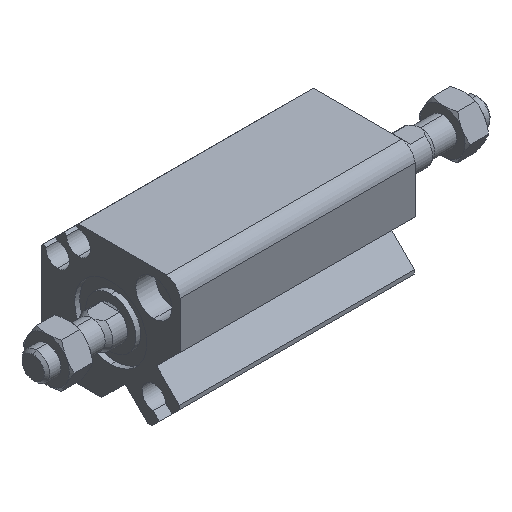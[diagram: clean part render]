
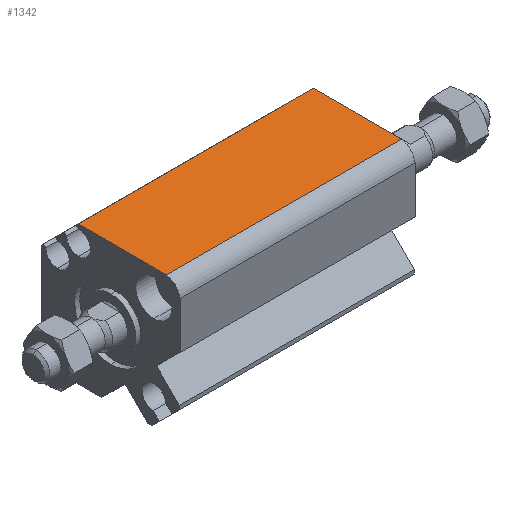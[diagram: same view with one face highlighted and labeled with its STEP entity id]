
A CAD part, isometric view. The second image highlights one B-rep face of the part: STEP entity #1342.
In plain terms, the highlighted planar face has unit normal (0, 0, 1).
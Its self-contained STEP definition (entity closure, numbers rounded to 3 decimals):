
#233 = EDGE_CURVE ( 'NONE', #553, #1711, #1279, .T. ) ;
#306 = CARTESIAN_POINT ( 'NONE',  ( 42.4, 5.885, 12.5 ) ) ;
#327 = DIRECTION ( 'NONE',  ( 0., 0., -1. ) ) ;
#384 = ORIENTED_EDGE ( 'NONE', *, *, #3350, .T. ) ;
#553 = VERTEX_POINT ( 'NONE', #4320 ) ;
#585 = VECTOR ( 'NONE', #4435, 1000. ) ;
#658 = CARTESIAN_POINT ( 'NONE',  ( 0., -10.069, 12.5 ) ) ;
#906 = LINE ( 'NONE', #1207, #962 ) ;
#962 = VECTOR ( 'NONE', #2767, 1000. ) ;
#1207 = CARTESIAN_POINT ( 'NONE',  ( 42.4, -10.069, 12.5 ) ) ;
#1279 = LINE ( 'NONE', #2115, #1786 ) ;
#1283 = DIRECTION ( 'NONE',  ( 0., -1., 0. ) ) ;
#1342 = ADVANCED_FACE ( 'NONE', ( #4120 ), #2925, .F. ) ;
#1351 = VERTEX_POINT ( 'NONE', #658 ) ;
#1388 = EDGE_LOOP ( 'NONE', ( #384, #3601, #3225, #3447 ) ) ;
#1393 = CARTESIAN_POINT ( 'NONE',  ( 42.4, -10.069, 12.5 ) ) ;
#1566 = VERTEX_POINT ( 'NONE', #4336 ) ;
#1646 = AXIS2_PLACEMENT_3D ( 'NONE', #306, #327, #2241 ) ;
#1711 = VERTEX_POINT ( 'NONE', #1393 ) ;
#1786 = VECTOR ( 'NONE', #2037, 1000. ) ;
#2037 = DIRECTION ( 'NONE',  ( 0., -1., 0. ) ) ;
#2115 = CARTESIAN_POINT ( 'NONE',  ( 42.4, 5.885, 12.5 ) ) ;
#2241 = DIRECTION ( 'NONE',  ( 0., -1., 0. ) ) ;
#2353 = LINE ( 'NONE', #4601, #2521 ) ;
#2434 = EDGE_CURVE ( 'NONE', #553, #1566, #4900, .T. ) ;
#2521 = VECTOR ( 'NONE', #1283, 1000. ) ;
#2767 = DIRECTION ( 'NONE',  ( -1., 0., 0. ) ) ;
#2925 = PLANE ( 'NONE',  #1646 ) ;
#3225 = ORIENTED_EDGE ( 'NONE', *, *, #233, .F. ) ;
#3350 = EDGE_CURVE ( 'NONE', #1566, #1351, #2353, .T. ) ;
#3447 = ORIENTED_EDGE ( 'NONE', *, *, #2434, .T. ) ;
#3601 = ORIENTED_EDGE ( 'NONE', *, *, #3691, .F. ) ;
#3656 = CARTESIAN_POINT ( 'NONE',  ( 42.4, 5.885, 12.5 ) ) ;
#3691 = EDGE_CURVE ( 'NONE', #1711, #1351, #906, .T. ) ;
#4120 = FACE_OUTER_BOUND ( 'NONE', #1388, .T. ) ;
#4320 = CARTESIAN_POINT ( 'NONE',  ( 42.4, 5.885, 12.5 ) ) ;
#4336 = CARTESIAN_POINT ( 'NONE',  ( 0., 5.885, 12.5 ) ) ;
#4435 = DIRECTION ( 'NONE',  ( -1., 0., 0. ) ) ;
#4601 = CARTESIAN_POINT ( 'NONE',  ( 0., 5.885, 12.5 ) ) ;
#4900 = LINE ( 'NONE', #3656, #585 ) ;
